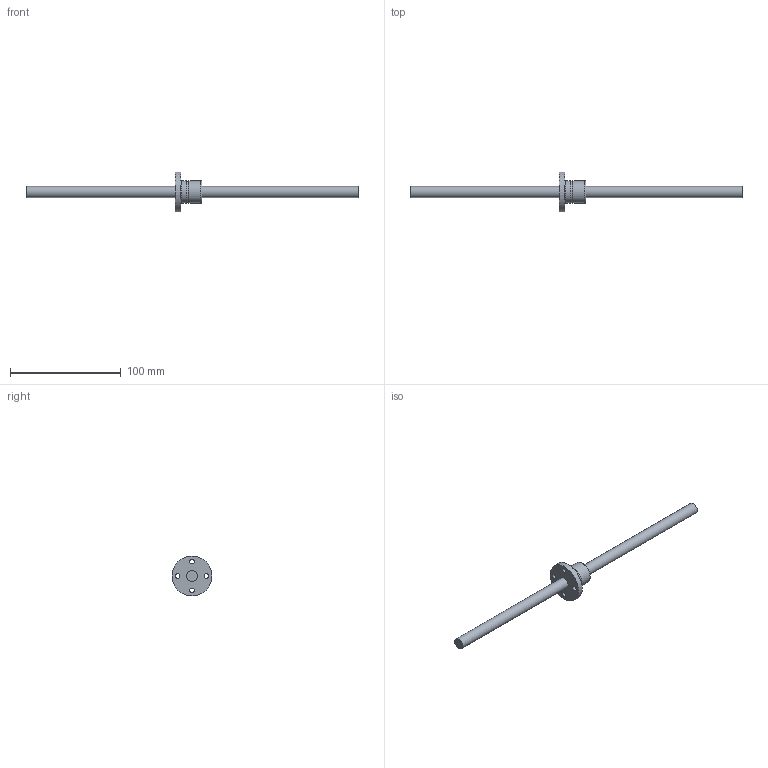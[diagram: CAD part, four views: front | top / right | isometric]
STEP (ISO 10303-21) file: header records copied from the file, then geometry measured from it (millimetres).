
FILE_DESCRIPTION((''),'2;1');
FILE_NAME('D:\製品 (図面)\カタログ用3D\ネジ関連\STEP形式\TMF-OH\TMF10-OH.stp','2010-06-02T15:12:35',('Tsuchiya'),(''),'Autodesk Inventor 10','Autodesk Inventor 10','');
FILE_SCHEMA(('AUTOMOTIVE_DESIGN { 1 0 10303 214 1 1 1 1 }'));
Length unit declared in the file: millimetre
Products named in the file (3): TMF10-OH; TMF10-OH1; TMF10-OH2
Assembly tree (2 placements, depth 2):
  TMF10-OH
    TMF10-OH1
    TMF10-OH2
Bounding box: 300 x 36 x 36 mm (x, y, z)
Volume: 32374.2 mm3; surface area: 14115.6 mm2
Topology: 2 solids, 2 shells, 18 faces, 40 edges, 27 vertices
Faces by surface type: cylinder 10, plane 5, bspline 2, torus 1
Full cylindrical faces by diameter (mm): 1.5 x1, 4.3 x4, 10 x2, 20 x2, 36 x1
Entity records: 710 total; most frequent: CARTESIAN_POINT 287, DIRECTION 82, ORIENTED_EDGE 44, EDGE_LOOP 44, AXIS2_PLACEMENT_3D 41, FACE_BOUND 26, VERTEX_POINT 22, EDGE_CURVE 22
